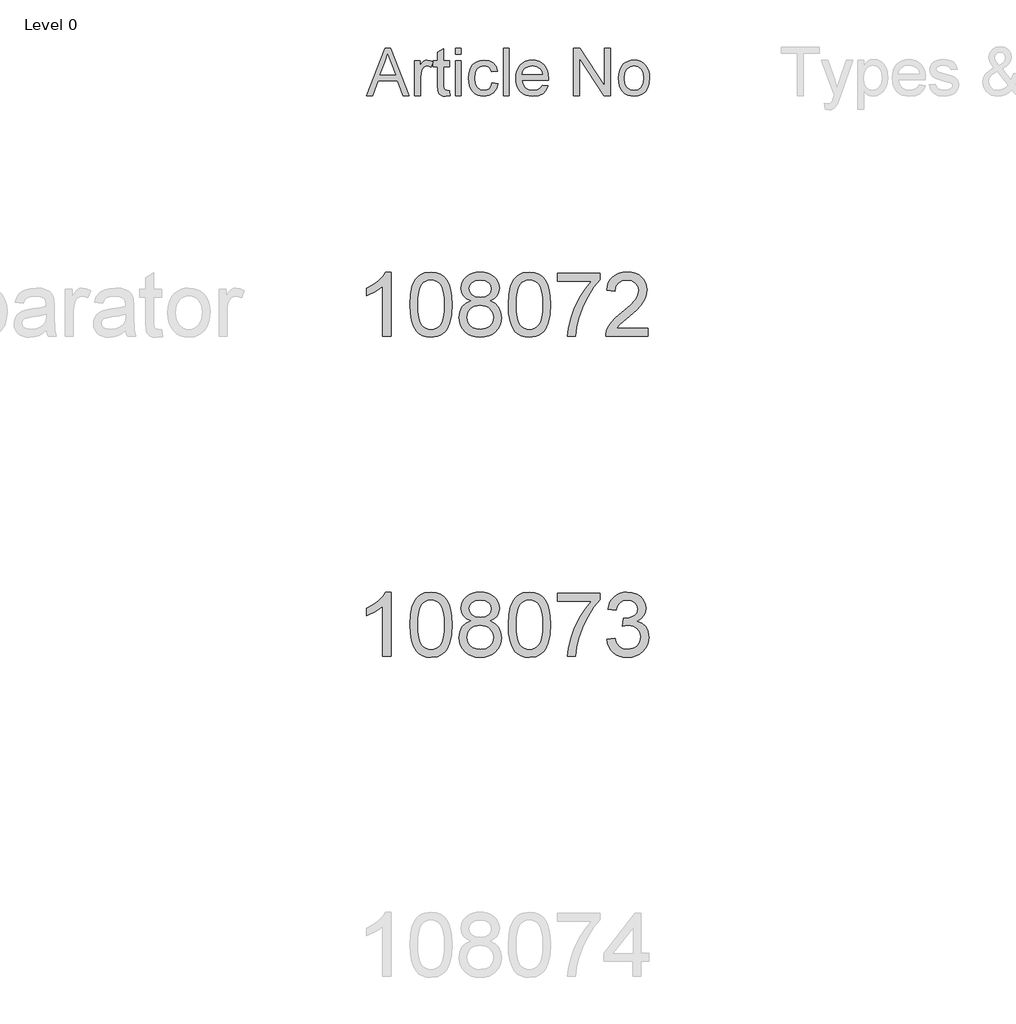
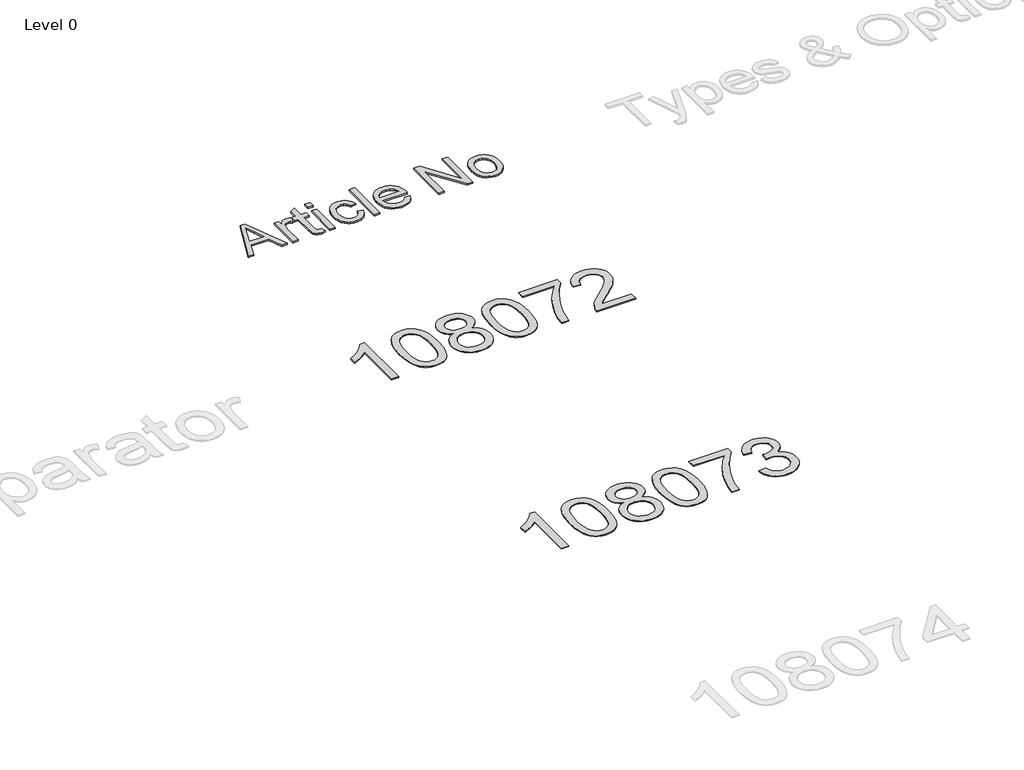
# One storey, part 7 of 8: 3 proxies.
"""IFC4 building model written with IfcOpenShell, lengths in millimetres."""

from ifc_helpers import new_model, si_unit, origin, origin_with_axes, place, context, project, spatial, polyline, outline, extrude, element, save

model = new_model("IFC4")

# Units and contexts
model_context = context("Model", 3, world=origin())
ifc_project = project(units=[si_unit("LENGTHUNIT", "METRE", prefix="MILLI")], contexts=[model_context])

# Site, building, storey
site = spatial("IfcSite", under=ifc_project)
building = spatial("IfcBuilding", under=site)
storey = spatial("IfcBuildingStorey", under=building, Name="Level 0", Elevation=0.0)

# Proxies
placement = place(None, origin())
element("IfcBuildingElementProxy", 1, Name="300mm Arial", ObjectType="300mm Arial", at=placement, inside=storey, context=model_context, shape_type="SweptSolid", body=[
    extrude(outline(polyline([(-3782.2115467, 11653.8274553), (-3664.3028928, 11949.2120707), (-3632.8605852, 11949.2120707), (-3514.9519313, 11653.8274553), (-3553.9663544, 11653.8274553), (-3587.7884698, 11746.1351476), (-3709.4471236, 11746.1351476), (-3743.1971236, 11653.8274553), (-3782.2115467, 11653.8274553)]), holes=[polyline([(-3695.8894313, 11783.0582246), (-3601.2740467, 11783.0582246), (-3627.8846236, 11855.6784169), (-3648.581739, 11912.2889938), (-3666.9711621, 11862.0245707), (-3695.8894313, 11783.0582246)])]), origin_with_axes(), (0.0, 0.0, 1.0), 10.0),
    extrude(outline(polyline([(-3480.1202005, 11653.8274553), (-3480.1202005, 11870.7505323), (-3447.8125082, 11870.7505323), (-3447.8125082, 11838.6591861), (-3435.8774121, 11857.2649553), (-3424.8798159, 11868.2264938), (-3413.8461621, 11873.5810611), (-3401.8028928, 11875.3659169), (-3383.4134698, 11872.5173592), (-3364.7355852, 11863.9716861), (-3377.0673159, 11830.8707246), (-3390.0480852, 11836.5498111), (-3403.0288544, 11838.44284), (-3414.0534938, 11836.6219265), (-3423.9062582, 11831.1591861), (-3431.8659938, 11822.4692823), (-3437.2115467, 11810.9668784), (-3441.7007294, 11790.3418784), (-3443.1971236, 11767.8418784), (-3443.1971236, 11653.8274553), (-3480.1202005, 11653.8274553)])), origin_with_axes(), (0.0, 0.0, 1.0), 10.0),
    extrude(outline(polyline([(-3263.1971236, 11684.6207246), (-3258.581739, 11652.7457246), (-3286.2019313, 11649.2120707), (-3303.9242871, 11650.7445226), (-3317.1394313, 11655.3418784), (-3326.4783736, 11662.427215), (-3332.5721236, 11671.4236092), (-3335.925489, 11686.8743303), (-3337.0432775, 11713.3226476), (-3337.0432775, 11833.8274553), (-3364.7355852, 11833.8274553), (-3364.7355852, 11870.7505323), (-3337.0432775, 11870.7505323), (-3337.0432775, 11923.4668784), (-3300.1202005, 11945.1736092), (-3300.1202005, 11870.7505323), (-3263.1971236, 11870.7505323), (-3263.1971236, 11833.8274553), (-3300.1202005, 11833.8274553), (-3300.1202005, 11714.4043784), (-3298.1730852, 11695.3659169), (-3291.862989, 11688.6231284), (-3279.2788544, 11686.1351476), (-3263.1971236, 11684.6207246)])), origin_with_axes(), (0.0, 0.0, 1.0), 10.0),
    extrude(outline(polyline([(-3226.2740467, 11912.2889938), (-3226.2740467, 11949.2120707), (-3189.3509698, 11949.2120707), (-3189.3509698, 11912.2889938), (-3226.2740467, 11912.2889938)])), origin_with_axes(), (0.0, 0.0, 1.0), 10.0),
    extrude(outline(polyline([(-3226.2740467, 11653.8274553), (-3226.2740467, 11870.7505323), (-3189.3509698, 11870.7505323), (-3189.3509698, 11653.8274553), (-3226.2740467, 11653.8274553)])), origin_with_axes(), (0.0, 0.0, 1.0), 10.0),
    extrude(outline(polyline([(-2995.5048159, 11732.2889938), (-2958.581739, 11727.6736092), (-2968.8762102, 11694.8340659), (-2988.2211621, 11670.0173592), (-3014.7956813, 11654.4133928), (-3046.7788544, 11649.2120707), (-3067.4872378, 11651.0262234), (-3086.0546957, 11656.4686813), (-3102.4812282, 11665.5394445), (-3116.7668352, 11678.238513), (-3128.3300864, 11694.3270046), (-3136.5895515, 11713.5660371), (-3141.5452306, 11735.9556104), (-3143.1971236, 11761.4957246), (-3140.3756092, 11794.3532967), (-3131.9110659, 11822.8298592), (-3117.6682775, 11845.8256525), (-3097.5120275, 11862.2409169), (-3073.3984457, 11872.0846669), (-3047.2836621, 11875.3659169), (-3016.0847438, 11870.8587053), (-2991.1418352, 11857.3370707), (-2973.2482053, 11835.5221669), (-2963.1971236, 11806.1351476), (-3000.1202005, 11801.519763), (-3006.8179169, 11817.6285371), (-3017.2476044, 11829.176013), (-3030.83234, 11836.1261332), (-3046.9952005, 11838.44284), (-3070.8563784, 11833.8815419), (-3089.7956813, 11820.1976476), (-3102.1544553, 11796.6519746), (-3106.2740467, 11762.50534), (-3102.2445996, 11727.8989698), (-3090.1562582, 11704.2721669), (-3071.5595034, 11690.6694025), (-3048.0048159, 11686.1351476), (-3028.8852246, 11688.9656765), (-3013.2091428, 11697.457263), (-3001.8058977, 11711.8262534), (-2995.5048159, 11732.2889938)])), origin_with_axes(), (0.0, 0.0, 1.0), 10.0),
    extrude(outline(polyline([(-2926.2740467, 11653.8274553), (-2926.2740467, 11949.2120707), (-2889.3509698, 11949.2120707), (-2889.3509698, 11653.8274553), (-2926.2740467, 11653.8274553)])), origin_with_axes(), (0.0, 0.0, 1.0), 10.0),
    extrude(outline(polyline([(-2682.0913544, 11718.44284), (-2645.8894313, 11713.8274553), (-2658.9333015, 11686.5498111), (-2679.7476044, 11666.1591861), (-2707.86359, 11653.4488496), (-2742.8125082, 11649.2120707), (-2765.7226645, 11651.039745), (-2786.1358255, 11656.5227678), (-2804.0519914, 11665.6611392), (-2819.4711621, 11678.4548592), (-2831.870501, 11694.547858), (-2840.7271717, 11713.5840659), (-2846.0411741, 11735.563483), (-2847.8125082, 11760.4861092), (-2846.0231453, 11786.2538375), (-2840.6550563, 11808.9656765), (-2831.7082414, 11828.621626), (-2819.1827005, 11845.2216861), (-2803.8040948, 11858.4097871), (-2786.2980852, 11867.8298592), (-2766.6646717, 11873.4819025), (-2744.9038544, 11875.3659169), (-2723.8439085, 11873.4864097), (-2704.7986861, 11867.847888), (-2687.7681873, 11858.450352), (-2672.7524121, 11845.2938015), (-2660.4950503, 11828.7297991), (-2651.7397919, 11809.1099073), (-2646.4866368, 11786.434126), (-2644.7355852, 11760.7024553), (-2644.9519313, 11750.7505323), (-2810.8894313, 11750.7505323), (-2804.4982053, 11723.1123111), (-2789.6514505, 11702.7938015), (-2768.2241669, 11690.2998111), (-2742.0913544, 11686.1351476), (-2722.4399121, 11688.0642342), (-2705.8894313, 11693.8514938), (-2692.4399121, 11703.8575034), (-2682.0913544, 11718.44284)]), holes=[polyline([(-2810.8894313, 11787.6736092), (-2681.6586621, 11787.6736092), (-2686.6526525, 11807.1808207), (-2696.4423159, 11821.1351476), (-2717.9687582, 11834.1159169), (-2745.0480852, 11838.44284), (-2769.9369073, 11834.9903159), (-2790.5168352, 11824.6327438), (-2804.8227246, 11808.4879121), (-2810.8894313, 11787.6736092)])]), origin_with_axes(), (0.0, 0.0, 1.0), 10.0),
    extrude(outline(polyline([(-2487.8125082, 11653.8274553), (-2487.8125082, 11949.2120707), (-2448.2932775, 11949.2120707), (-2293.9663544, 11715.1976476), (-2293.9663544, 11949.2120707), (-2257.0432775, 11949.2120707), (-2257.0432775, 11653.8274553), (-2296.5625082, 11653.8274553), (-2450.8894313, 11887.9139938), (-2450.8894313, 11653.8274553), (-2487.8125082, 11653.8274553)])), origin_with_axes(), (0.0, 0.0, 1.0), 10.0),
    extrude(outline(polyline([(-2206.2740467, 11762.2889938), (-2204.277352, 11790.3824433), (-2198.2872678, 11814.5906765), (-2188.3037943, 11834.9136933), (-2174.3269313, 11851.3514938), (-2160.2554169, 11861.8578039), (-2144.7235659, 11869.3623111), (-2127.7313784, 11873.8650154), (-2109.2788544, 11875.3659169), (-2088.9085118, 11873.5382426), (-2070.4897919, 11868.0552198), (-2054.0226945, 11858.9168484), (-2039.5072198, 11846.1231284), (-2027.6600142, 11830.1067522), (-2019.1977246, 11811.3004121), (-2014.1203508, 11789.704108), (-2012.4278928, 11765.31784), (-2015.4206813, 11728.0161573), (-2024.3990467, 11699.6207246), (-2039.1015707, 11678.3557005), (-2059.2668352, 11662.4452438), (-2083.2181573, 11652.520364), (-2109.2788544, 11649.2120707), (-2129.9466729, 11651.0329842), (-2148.5366669, 11656.4957246), (-2165.0488364, 11665.6002919), (-2179.4831813, 11678.3466861), (-2191.2041849, 11694.5185611), (-2199.5763303, 11713.8995707), (-2204.5996176, 11736.489715), (-2206.2740467, 11762.2889938)]), holes=[polyline([(-2169.3509698, 11762.3611092), (-2165.0781332, 11728.9446428), (-2152.2596236, 11705.1375515), (-2132.9687582, 11690.8857486), (-2109.2788544, 11686.1351476), (-2085.6971236, 11690.9127919), (-2066.4423159, 11705.2457246), (-2053.6238063, 11729.3683207), (-2049.3509698, 11763.5149553), (-2053.6508496, 11795.957864), (-2066.550489, 11819.4404361), (-2085.83234, 11833.692239), (-2109.2788544, 11838.44284), (-2132.9687582, 11833.7102678), (-2152.2596236, 11819.5125515), (-2165.0781332, 11795.7595467), (-2169.3509698, 11762.3611092)])]), origin_with_axes(), (0.0, 0.0, 1.0), 10.0),
])
element("IfcBuildingElementProxy", 2, Name="400mm Arial", ObjectType="400mm Arial", at=placement, inside=storey, context=model_context, shape_type="SweptSolid", body=[
    extrude(outline(polyline([(-3629.592891, 10149.0232018), (-3679.821046, 10149.0232018), (-3679.821046, 10462.1643561), (-3700.7903198, 10445.2049961), (-3727.4004508, 10428.2701616), (-3780.2773562, 10402.9108294), (-3780.2773562, 10450.3921323), (-3740.8281436, 10471.8519153), (-3706.6519062, 10497.3829258), (-3679.7106814, 10524.532617), (-3661.9665065, 10550.8484424), (-3629.592891, 10550.8484424), (-3629.592891, 10149.0232018)])), origin_with_axes(), (0.0, 0.0, 1.0), 5.0),
    extrude(outline(polyline([(-3510.3010227, 10346.6984606), (-3506.60994, 10411.0164961), (-3495.5366919, 10462.3115089), (-3477.1916431, 10501.3683141), (-3465.3335801, 10516.6016944), (-3451.6851581, 10528.9717264), (-3436.2003918, 10538.5427897), (-3418.8332959, 10545.3792634), (-3378.4521156, 10550.8484424), (-3347.5009771, 10547.6110809), (-3319.7872001, 10537.8989962), (-3296.6106344, 10522.0923331), (-3279.2711297, 10500.5712364), (-3266.1745307, 10473.519647), (-3255.726682, 10441.121506), (-3248.8840769, 10399.9800362), (-3246.6032085, 10346.6984606), (-3250.257503, 10282.7483071), (-3261.2203865, 10231.5759215), (-3279.4550707, 10192.4823282), (-3291.2855425, 10177.2029627), (-3304.9247675, 10164.7685512), (-3320.4279279, 10155.1331086), (-3337.8502061, 10148.2506496), (-3378.4521156, 10142.7446824), (-3406.1168416, 10145.1359154), (-3430.642308, 10152.3096143), (-3452.0285146, 10164.2657792), (-3470.2754616, 10181.0044099), (-3487.7866446, 10211.262704), (-3500.2946324, 10248.9644772), (-3507.7994251, 10294.1097294), (-3510.3010227, 10346.6984606)]), holes=[polyline([(-3460.0728676, 10346.7965624), (-3458.6013396, 10303.1320353), (-3454.1867557, 10267.7877726), (-3446.8291158, 10240.7637744), (-3436.5284199, 10222.0600406), (-3424.069483, 10209.3343892), (-3410.23712, 10200.2446383), (-3395.0313308, 10194.7907877), (-3378.4521156, 10192.9728375), (-3361.8729003, 10194.7969191), (-3346.6671112, 10200.2691637), (-3332.8347482, 10209.3895715), (-3320.3758113, 10222.1581425), (-3310.0751154, 10240.8925331), (-3302.7174755, 10267.9103999), (-3298.3028916, 10303.2117431), (-3296.8313636, 10346.7965624), (-3298.2538406, 10389.305327), (-3302.5212718, 10424.0272559), (-3309.633657, 10450.9623494), (-3319.5909964, 10470.1106072), (-3331.8414668, 10483.4585923), (-3345.8332454, 10492.9928673), (-3361.566332, 10498.7134323), (-3379.0407268, 10500.6202873), (-3395.5341029, 10498.9402929), (-3410.4823746, 10493.9003096), (-3423.885542, 10485.5003373), (-3435.743605, 10473.7403762), (-3446.3876574, 10452.8937298), (-3453.9905519, 10424.7875454), (-3458.5522887, 10389.4218229), (-3460.0728676, 10346.7965624)])]), origin_with_axes(), (0.0, 0.0, 1.0), 5.0),
    extrude(outline(polyline([(-3129.4695813, 10370.3410101), (-3156.3617551, 10383.5847619), (-3175.2341015, 10401.5374033), (-3186.3809259, 10423.8310522), (-3190.0965341, 10450.0978267), (-3188.0731831, 10470.5827224), (-3182.0031302, 10489.3630983), (-3171.8863753, 10506.4389542), (-3157.7229185, 10521.8102903), (-3140.1933414, 10534.5144818), (-3119.9782258, 10543.5889044), (-3097.0775716, 10549.0335579), (-3071.4913788, 10550.8484424), (-3045.7825587, 10548.9906383), (-3022.7102263, 10543.4172261), (-3002.2743814, 10534.1282057), (-2984.4750242, 10521.1235772), (-2970.05405, 10505.4518042), (-2959.7533542, 10488.1613504), (-2953.5729366, 10469.2522159), (-2951.5127975, 10448.7244006), (-2955.1793547, 10423.3037547), (-2966.1790263, 10401.3902505), (-2984.6344398, 10383.5479737), (-3010.6682223, 10370.3410101), (-2979.753872, 10354.4117197), (-2957.2517566, 10330.9531112), (-2943.5297582, 10301.0933559), (-2938.9557587, 10265.9606254), (-2941.2243643, 10240.9078615), (-2948.0301812, 10217.9397623), (-2959.3732094, 10197.0563277), (-2975.2534489, 10178.2575577), (-2994.8370338, 10162.7206748), (-3017.2900982, 10151.6229013), (-3042.6126422, 10144.9642371), (-3070.8046658, 10142.7446824), (-3098.9966893, 10144.9734342), (-3124.3192333, 10151.6596895), (-3146.7722978, 10162.8034482), (-3166.3558826, 10178.4047105), (-3182.2361221, 10197.3353048), (-3193.5791503, 10218.4670598), (-3200.3849672, 10241.7999753), (-3202.6535728, 10267.3340515), (-3197.8956324, 10303.8279454), (-3183.621811, 10333.8471162), (-3160.5678726, 10356.3614943), (-3129.4695813, 10370.3410101)]), holes=[polyline([(-3139.868379, 10448.6262987), (-3135.4170068, 10426.7005318), (-3122.0628904, 10409.1893488), (-3100.1984372, 10397.7114306), (-3070.2160546, 10393.8854578), (-3040.9326478, 10397.6869051), (-3019.3992883, 10409.0912469), (-3006.1555365, 10426.0138187), (-3001.7409525, 10446.3699558), (-3006.3026893, 10467.498645), (-3019.9878995, 10484.9730398), (-3041.8155645, 10496.7084755), (-3070.8046658, 10500.6202873), (-3099.977708, 10496.7943146), (-3121.7685848, 10485.3163963), (-3135.3434305, 10468.4919264), (-3139.868379, 10448.6262987)]), polyline([(-3152.4254178, 10269.099885), (-3150.3284904, 10249.8841822), (-3144.0377083, 10231.2816159), (-3132.4249, 10215.05802), (-3114.361894, 10202.9792278), (-3092.7304327, 10195.4744351), (-3070.4122583, 10192.9728375), (-3036.2237582, 10198.23355), (-3022.3300815, 10204.8094407), (-3010.5701204, 10214.0156876), (-2994.5304654, 10237.9157546), (-2989.1839138, 10267.5302552), (-2994.7021437, 10297.6475279), (-3011.2568335, 10322.0748924), (-3023.3356257, 10331.5171969), (-3037.4990825, 10338.2617001), (-3072.07999, 10343.6573027), (-3105.7902435, 10338.3352765), (-3119.5275703, 10331.6827438), (-3131.1863639, 10322.3691979), (-3147.1156543, 10298.4078173), (-3152.4254178, 10269.099885)])]), origin_with_axes(), (0.0, 0.0, 1.0), 5.0),
    extrude(outline(polyline([(-2895.006123, 10346.6984606), (-2891.3150403, 10411.0164961), (-2880.2417923, 10462.3115089), (-2861.8967434, 10501.3683141), (-2850.0386805, 10516.6016944), (-2836.3902584, 10528.9717264), (-2820.9054921, 10538.5427897), (-2803.5383963, 10545.3792634), (-2763.1572159, 10550.8484424), (-2732.2060774, 10547.6110809), (-2704.4923004, 10537.8989962), (-2681.3157347, 10522.0923331), (-2663.97623, 10500.5712364), (-2650.879631, 10473.519647), (-2640.4317823, 10441.121506), (-2633.5891772, 10399.9800362), (-2631.3083089, 10346.6984606), (-2634.9626033, 10282.7483071), (-2645.9254868, 10231.5759215), (-2664.160171, 10192.4823282), (-2675.9906429, 10177.2029627), (-2689.6298678, 10164.7685512), (-2705.1330282, 10155.1331086), (-2722.5553064, 10148.2506496), (-2763.1572159, 10142.7446824), (-2790.821942, 10145.1359154), (-2815.3474083, 10152.3096143), (-2836.733615, 10164.2657792), (-2854.9805619, 10181.0044099), (-2872.4917449, 10211.262704), (-2884.9997327, 10248.9644772), (-2892.5045254, 10294.1097294), (-2895.006123, 10346.6984606)]), holes=[polyline([(-2844.7779679, 10346.7965624), (-2843.3064399, 10303.1320353), (-2838.891856, 10267.7877726), (-2831.5342161, 10240.7637744), (-2821.2335202, 10222.0600406), (-2808.7745833, 10209.3343892), (-2794.9422203, 10200.2446383), (-2779.7364312, 10194.7907877), (-2763.1572159, 10192.9728375), (-2746.5780007, 10194.7969191), (-2731.3722115, 10200.2691637), (-2717.5398485, 10209.3895715), (-2705.0809116, 10222.1581425), (-2694.7802158, 10240.8925331), (-2687.4225759, 10267.9103999), (-2683.0079919, 10303.2117431), (-2681.5364639, 10346.7965624), (-2682.958941, 10389.305327), (-2687.2263721, 10424.0272559), (-2694.3387574, 10450.9623494), (-2704.2960967, 10470.1106072), (-2716.5465671, 10483.4585923), (-2730.5383457, 10492.9928673), (-2746.2714324, 10498.7134323), (-2763.7458271, 10500.6202873), (-2780.2392032, 10498.9402929), (-2795.187475, 10493.9003096), (-2808.5906423, 10485.5003373), (-2820.4487053, 10473.7403762), (-2831.0927577, 10452.8937298), (-2838.6956523, 10424.7875454), (-2843.257389, 10389.4218229), (-2844.7779679, 10346.7965624)])]), origin_with_axes(), (0.0, 0.0, 1.0), 5.0),
    extrude(outline(polyline([(-2587.3586732, 10494.341768), (-2587.3586732, 10544.569923), (-2323.660859, 10544.569923), (-2323.660859, 10503.9557508), (-2361.2461362, 10456.3886088), (-2398.4635314, 10395.8965461), (-2431.2908681, 10327.9977925), (-2455.7059698, 10258.210578), (-2467.6743974, 10205.9958601), (-2474.3453243, 10149.0232018), (-2524.5734793, 10149.0232018), (-2519.1410885, 10200.7964613), (-2504.6097497, 10262.3308563), (-2481.3718704, 10327.5563341), (-2449.8198579, 10390.4028416), (-2412.9826075, 10447.2160844), (-2373.8890141, 10494.341768), (-2587.3586732, 10494.341768)])), origin_with_axes(), (0.0, 0.0, 1.0), 5.0),
    extrude(outline(polyline([(-2022.2919286, 10199.2513569), (-2022.2919286, 10149.0232018), (-2285.9897427, 10149.0232018), (-2284.8860967, 10166.7060631), (-2280.5941401, 10183.6531603), (-2268.2087796, 10210.7170124), (-2250.08446, 10236.9715241), (-2223.8667365, 10264.4523092), (-2187.2011643, 10295.1949812), (-2132.9998837, 10343.3384717), (-2100.4791153, 10378.8758724), (-2084.2187311, 10407.7178208), (-2078.798603, 10435.7749543), (-2083.9121628, 10460.9258201), (-2099.252842, 10481.8337801), (-2122.8340779, 10495.9236605), (-2152.6693077, 10500.6202873), (-2184.0005909, 10496.0340251), (-2208.3421163, 10482.2752385), (-2224.0506775, 10460.423048), (-2229.4830683, 10431.5565741), (-2279.7112233, 10437.8350935), (-2275.3916756, 10463.7646428), (-2267.5343293, 10486.4200423), (-2256.1391845, 10505.8012921), (-2241.2062412, 10521.9083921), (-2223.0788559, 10534.5696641), (-2202.1003851, 10543.6134298), (-2178.2708288, 10549.0396893), (-2151.5901871, 10550.8484424), (-2124.6704222, 10548.8373542), (-2100.7121072, 10542.8040895), (-2079.7152423, 10532.7486483), (-2061.6798275, 10518.6710306), (-2047.194474, 10501.6135687), (-2036.8477929, 10482.618595), (-2030.6397842, 10461.6861095), (-2028.570448, 10438.8161122), (-2030.8022654, 10414.7934179), (-2037.4977177, 10391.1876565), (-2049.3803062, 10367.177225), (-2067.173532, 10341.9405201), (-2095.5372338, 10311.8109847), (-2139.1312502, 10273.1220615), (-2196.913249, 10224.8068928), (-2219.5747799, 10199.2513569), (-2022.2919286, 10199.2513569)])), origin_with_axes(), (0.0, 0.0, 1.0), 5.0),
])
element("IfcBuildingElementProxy", 3, Name="400mm Arial", ObjectType="400mm Arial", at=placement, inside=storey, context=model_context, shape_type="SweptSolid", body=[
    extrude(outline(polyline([(-3629.592891, 8149.0232018), (-3679.821046, 8149.0232018), (-3679.821046, 8462.1643561), (-3700.7903198, 8445.2049961), (-3727.4004508, 8428.2701616), (-3780.2773562, 8402.9108294), (-3780.2773562, 8450.3921323), (-3740.8281436, 8471.8519153), (-3706.6519062, 8497.3829258), (-3679.7106814, 8524.532617), (-3661.9665065, 8550.8484424), (-3629.592891, 8550.8484424), (-3629.592891, 8149.0232018)])), origin_with_axes(), (0.0, 0.0, 1.0), 5.0),
    extrude(outline(polyline([(-3510.3010227, 8346.6984606), (-3506.60994, 8411.0164961), (-3495.5366919, 8462.3115089), (-3477.1916431, 8501.3683141), (-3465.3335801, 8516.6016944), (-3451.6851581, 8528.9717264), (-3436.2003918, 8538.5427897), (-3418.8332959, 8545.3792634), (-3378.4521156, 8550.8484424), (-3347.5009771, 8547.6110809), (-3319.7872001, 8537.8989962), (-3296.6106344, 8522.0923331), (-3279.2711297, 8500.5712364), (-3266.1745307, 8473.519647), (-3255.726682, 8441.121506), (-3248.8840769, 8399.9800362), (-3246.6032085, 8346.6984606), (-3250.257503, 8282.7483071), (-3261.2203865, 8231.5759215), (-3279.4550707, 8192.4823282), (-3291.2855425, 8177.2029627), (-3304.9247675, 8164.7685512), (-3320.4279279, 8155.1331086), (-3337.8502061, 8148.2506496), (-3378.4521156, 8142.7446824), (-3406.1168416, 8145.1359154), (-3430.642308, 8152.3096143), (-3452.0285146, 8164.2657792), (-3470.2754616, 8181.0044099), (-3487.7866446, 8211.262704), (-3500.2946324, 8248.9644772), (-3507.7994251, 8294.1097294), (-3510.3010227, 8346.6984606)]), holes=[polyline([(-3460.0728676, 8346.7965624), (-3458.6013396, 8303.1320353), (-3454.1867557, 8267.7877726), (-3446.8291158, 8240.7637744), (-3436.5284199, 8222.0600406), (-3424.069483, 8209.3343892), (-3410.23712, 8200.2446383), (-3395.0313308, 8194.7907877), (-3378.4521156, 8192.9728375), (-3361.8729003, 8194.7969191), (-3346.6671112, 8200.2691637), (-3332.8347482, 8209.3895715), (-3320.3758113, 8222.1581425), (-3310.0751154, 8240.8925331), (-3302.7174755, 8267.9103999), (-3298.3028916, 8303.2117431), (-3296.8313636, 8346.7965624), (-3298.2538406, 8389.305327), (-3302.5212718, 8424.0272559), (-3309.633657, 8450.9623494), (-3319.5909964, 8470.1106072), (-3331.8414668, 8483.4585923), (-3345.8332454, 8492.9928673), (-3361.566332, 8498.7134323), (-3379.0407268, 8500.6202873), (-3395.5341029, 8498.9402929), (-3410.4823746, 8493.9003096), (-3423.885542, 8485.5003373), (-3435.743605, 8473.7403762), (-3446.3876574, 8452.8937298), (-3453.9905519, 8424.7875454), (-3458.5522887, 8389.4218229), (-3460.0728676, 8346.7965624)])]), origin_with_axes(), (0.0, 0.0, 1.0), 5.0),
    extrude(outline(polyline([(-3129.4695813, 8370.3410101), (-3156.3617551, 8383.5847619), (-3175.2341015, 8401.5374033), (-3186.3809259, 8423.8310522), (-3190.0965341, 8450.0978267), (-3188.0731831, 8470.5827224), (-3182.0031302, 8489.3630983), (-3171.8863753, 8506.4389542), (-3157.7229185, 8521.8102903), (-3140.1933414, 8534.5144818), (-3119.9782258, 8543.5889044), (-3097.0775716, 8549.0335579), (-3071.4913788, 8550.8484424), (-3045.7825587, 8548.9906383), (-3022.7102263, 8543.4172261), (-3002.2743814, 8534.1282057), (-2984.4750242, 8521.1235772), (-2970.05405, 8505.4518042), (-2959.7533542, 8488.1613504), (-2953.5729366, 8469.2522159), (-2951.5127975, 8448.7244006), (-2955.1793547, 8423.3037547), (-2966.1790263, 8401.3902505), (-2984.6344398, 8383.5479737), (-3010.6682223, 8370.3410101), (-2979.753872, 8354.4117197), (-2957.2517566, 8330.9531112), (-2943.5297582, 8301.0933559), (-2938.9557587, 8265.9606254), (-2941.2243643, 8240.9078615), (-2948.0301812, 8217.9397623), (-2959.3732094, 8197.0563277), (-2975.2534489, 8178.2575577), (-2994.8370338, 8162.7206748), (-3017.2900982, 8151.6229013), (-3042.6126422, 8144.9642371), (-3070.8046658, 8142.7446824), (-3098.9966893, 8144.9734342), (-3124.3192333, 8151.6596895), (-3146.7722978, 8162.8034482), (-3166.3558826, 8178.4047105), (-3182.2361221, 8197.3353048), (-3193.5791503, 8218.4670598), (-3200.3849672, 8241.7999753), (-3202.6535728, 8267.3340515), (-3197.8956324, 8303.8279454), (-3183.621811, 8333.8471162), (-3160.5678726, 8356.3614943), (-3129.4695813, 8370.3410101)]), holes=[polyline([(-3139.868379, 8448.6262987), (-3135.4170068, 8426.7005318), (-3122.0628904, 8409.1893488), (-3100.1984372, 8397.7114306), (-3070.2160546, 8393.8854578), (-3040.9326478, 8397.6869051), (-3019.3992883, 8409.0912469), (-3006.1555365, 8426.0138187), (-3001.7409525, 8446.3699558), (-3006.3026893, 8467.498645), (-3019.9878995, 8484.9730398), (-3041.8155645, 8496.7084755), (-3070.8046658, 8500.6202873), (-3099.977708, 8496.7943146), (-3121.7685848, 8485.3163963), (-3135.3434305, 8468.4919264), (-3139.868379, 8448.6262987)]), polyline([(-3152.4254178, 8269.099885), (-3150.3284904, 8249.8841822), (-3144.0377083, 8231.2816159), (-3132.4249, 8215.05802), (-3114.361894, 8202.9792278), (-3092.7304327, 8195.4744351), (-3070.4122583, 8192.9728375), (-3036.2237582, 8198.23355), (-3022.3300815, 8204.8094407), (-3010.5701204, 8214.0156876), (-2994.5304654, 8237.9157546), (-2989.1839138, 8267.5302552), (-2994.7021437, 8297.6475279), (-3011.2568335, 8322.0748924), (-3023.3356257, 8331.5171969), (-3037.4990825, 8338.2617001), (-3072.07999, 8343.6573027), (-3105.7902435, 8338.3352765), (-3119.5275703, 8331.6827438), (-3131.1863639, 8322.3691979), (-3147.1156543, 8298.4078173), (-3152.4254178, 8269.099885)])]), origin_with_axes(), (0.0, 0.0, 1.0), 5.0),
    extrude(outline(polyline([(-2895.006123, 8346.6984606), (-2891.3150403, 8411.0164961), (-2880.2417923, 8462.3115089), (-2861.8967434, 8501.3683141), (-2850.0386805, 8516.6016944), (-2836.3902584, 8528.9717264), (-2820.9054921, 8538.5427897), (-2803.5383963, 8545.3792634), (-2763.1572159, 8550.8484424), (-2732.2060774, 8547.6110809), (-2704.4923004, 8537.8989962), (-2681.3157347, 8522.0923331), (-2663.97623, 8500.5712364), (-2650.879631, 8473.519647), (-2640.4317823, 8441.121506), (-2633.5891772, 8399.9800362), (-2631.3083089, 8346.6984606), (-2634.9626033, 8282.7483071), (-2645.9254868, 8231.5759215), (-2664.160171, 8192.4823282), (-2675.9906429, 8177.2029627), (-2689.6298678, 8164.7685512), (-2705.1330282, 8155.1331086), (-2722.5553064, 8148.2506496), (-2763.1572159, 8142.7446824), (-2790.821942, 8145.1359154), (-2815.3474083, 8152.3096143), (-2836.733615, 8164.2657792), (-2854.9805619, 8181.0044099), (-2872.4917449, 8211.262704), (-2884.9997327, 8248.9644772), (-2892.5045254, 8294.1097294), (-2895.006123, 8346.6984606)]), holes=[polyline([(-2844.7779679, 8346.7965624), (-2843.3064399, 8303.1320353), (-2838.891856, 8267.7877726), (-2831.5342161, 8240.7637744), (-2821.2335202, 8222.0600406), (-2808.7745833, 8209.3343892), (-2794.9422203, 8200.2446383), (-2779.7364312, 8194.7907877), (-2763.1572159, 8192.9728375), (-2746.5780007, 8194.7969191), (-2731.3722115, 8200.2691637), (-2717.5398485, 8209.3895715), (-2705.0809116, 8222.1581425), (-2694.7802158, 8240.8925331), (-2687.4225759, 8267.9103999), (-2683.0079919, 8303.2117431), (-2681.5364639, 8346.7965624), (-2682.958941, 8389.305327), (-2687.2263721, 8424.0272559), (-2694.3387574, 8450.9623494), (-2704.2960967, 8470.1106072), (-2716.5465671, 8483.4585923), (-2730.5383457, 8492.9928673), (-2746.2714324, 8498.7134323), (-2763.7458271, 8500.6202873), (-2780.2392032, 8498.9402929), (-2795.187475, 8493.9003096), (-2808.5906423, 8485.5003373), (-2820.4487053, 8473.7403762), (-2831.0927577, 8452.8937298), (-2838.6956523, 8424.7875454), (-2843.257389, 8389.4218229), (-2844.7779679, 8346.7965624)])]), origin_with_axes(), (0.0, 0.0, 1.0), 5.0),
    extrude(outline(polyline([(-2587.3586732, 8494.341768), (-2587.3586732, 8544.569923), (-2323.660859, 8544.569923), (-2323.660859, 8503.9557508), (-2361.2461362, 8456.3886088), (-2398.4635314, 8395.8965461), (-2431.2908681, 8327.9977925), (-2455.7059698, 8258.210578), (-2467.6743974, 8205.9958601), (-2474.3453243, 8149.0232018), (-2524.5734793, 8149.0232018), (-2519.1410885, 8200.7964613), (-2504.6097497, 8262.3308563), (-2481.3718704, 8327.5563341), (-2449.8198579, 8390.4028416), (-2412.9826075, 8447.2160844), (-2373.8890141, 8494.341768), (-2587.3586732, 8494.341768)])), origin_with_axes(), (0.0, 0.0, 1.0), 5.0),
    extrude(outline(polyline([(-2279.7112233, 8255.7580314), (-2229.4830683, 8262.0365507), (-2218.2381419, 8230.4722756), (-2201.7692913, 8209.1596453), (-2179.2671759, 8197.0195395), (-2149.9224554, 8192.9728375), (-2115.4887007, 8198.5401184), (-2101.2148793, 8205.4992194), (-2088.9030952, 8215.241961), (-2071.906947, 8240.1598348), (-2066.2415643, 8270.3752093), (-2071.8578961, 8299.0577422), (-2088.7068914, 8322.320147), (-2114.2133764, 8337.7344026), (-2145.8021771, 8342.8724878), (-2181.0207468, 8337.3787834), (-2175.4289404, 8387.6069384), (-2167.3845875, 8387.0183272), (-2137.2918403, 8390.6235708), (-2110.3874037, 8401.4393014), (-2099.3141556, 8409.6185445), (-2091.4046927, 8419.7352993), (-2086.659015, 8431.789566), (-2085.0771224, 8445.7813446), (-2089.6633846, 8467.4741196), (-2103.4221712, 8485.0711417), (-2124.4159704, 8496.7330009), (-2150.7072704, 8500.6202873), (-2177.0476212, 8496.6962127), (-2198.5809807, 8484.9239889), (-2214.3018046, 8465.3036158), (-2223.2045489, 8437.8350935), (-2273.432704, 8444.1136129), (-2267.479147, 8468.0933876), (-2258.6438477, 8489.2159455), (-2246.9268062, 8507.4812866), (-2232.3280224, 8522.8894108), (-2215.3073487, 8535.1214871), (-2196.3246378, 8543.8586845), (-2175.3798895, 8549.1010029), (-2152.4731039, 8550.8484424), (-2120.896566, 8547.4026144), (-2091.8952021, 8537.0651303), (-2067.4433121, 8520.7556952), (-2049.5151962, 8499.394014), (-2038.5155246, 8474.7827086), (-2034.8489673, 8448.7244006), (-2038.3315836, 8424.4441889), (-2048.7794322, 8402.4203201), (-2066.0453605, 8383.6583383), (-2089.9822157, 8369.1637877), (-2058.5405678, 8356.4595962), (-2035.2413748, 8334.8281349), (-2020.8204006, 8305.4466262), (-2016.0134092, 8269.4922925), (-2018.4169049, 8244.010333), (-2025.627392, 8220.5394617), (-2037.6448705, 8199.0796786), (-2054.4693404, 8179.6309838), (-2074.9664989, 8163.493227), (-2098.0020432, 8151.9662578), (-2123.5759732, 8145.0500763), (-2151.688289, 8142.7446824), (-2177.0966721, 8144.7128511), (-2200.2487124, 8150.6173571), (-2221.1444097, 8160.4582005), (-2239.7837641, 8174.2353812), (-2255.4126176, 8191.1395589), (-2267.2768119, 8210.3613932), (-2275.3763472, 8231.900884), (-2279.7112233, 8255.7580314)])), origin_with_axes(), (0.0, 0.0, 1.0), 5.0),
])

save(model, "model.ifc")
